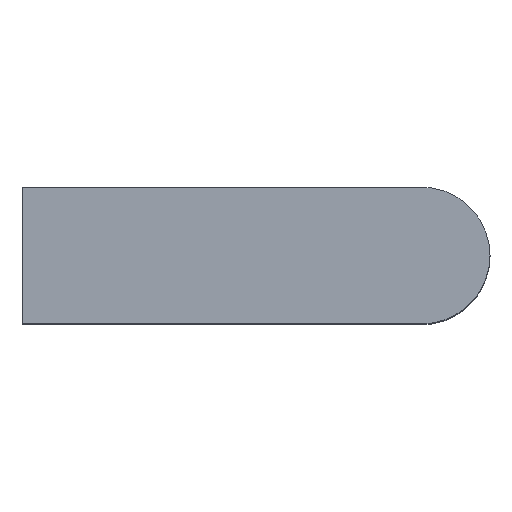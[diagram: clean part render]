
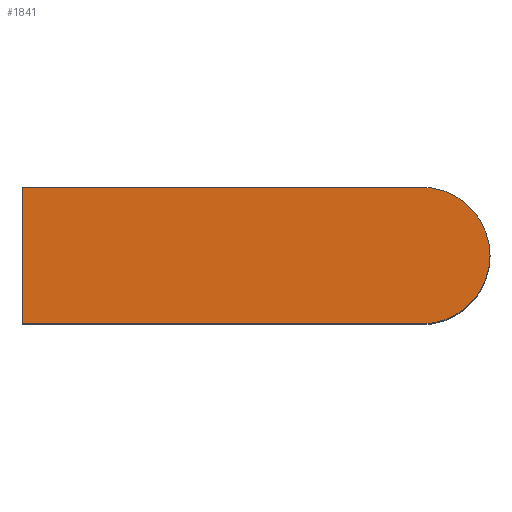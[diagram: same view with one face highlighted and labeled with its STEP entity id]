
A CAD part, top view. The second image highlights one B-rep face of the part: STEP entity #1841.
In plain terms, the highlighted planar face has unit normal (0, 0, 1).
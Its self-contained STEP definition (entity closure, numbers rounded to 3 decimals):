
#1344=CARTESIAN_POINT('Vertex',(55.5,0.,37.9)) ;
#1347=CARTESIAN_POINT('Line Origine',(27.75,0.,37.9)) ;
#1351=CARTESIAN_POINT('Vertex',(0.,0.,37.9)) ;
#1435=CARTESIAN_POINT('Vertex',(55.5,19.,37.9)) ;
#1438=CARTESIAN_POINT('Axis2P3D Location',(55.5,9.5,37.9)) ;
#1522=CARTESIAN_POINT('Line Origine',(0.,9.5,37.9)) ;
#1526=CARTESIAN_POINT('Vertex',(0.,19.,37.9)) ;
#1593=CARTESIAN_POINT('Line Origine',(27.75,19.,37.9)) ;
#1830=CARTESIAN_POINT('Axis2P3D Location',(0.,0.,37.9)) ;
#1348=DIRECTION('Vector Direction',(1.,0.,0.)) ;
#1439=DIRECTION('Axis2P3D Direction',(0.,0.,1.)) ;
#1523=DIRECTION('Vector Direction',(0.,-1.,0.)) ;
#1594=DIRECTION('Vector Direction',(-1.,0.,0.)) ;
#1831=DIRECTION('Axis2P3D Direction',(0.,0.,1.)) ;
#1832=DIRECTION('Axis2P3D XDirection',(1.,0.,0.)) ;
#1440=AXIS2_PLACEMENT_3D('Circle Axis2P3D',#1438,#1439,$) ;
#1833=AXIS2_PLACEMENT_3D('Plane Axis2P3D',#1830,#1831,#1832) ;
#1836=ORIENTED_EDGE('',*,*,#1353,.T.) ;
#1837=ORIENTED_EDGE('',*,*,#1442,.T.) ;
#1838=ORIENTED_EDGE('',*,*,#1597,.T.) ;
#1839=ORIENTED_EDGE('',*,*,#1528,.T.) ;
#1349=VECTOR('Line Direction',#1348,1.) ;
#1524=VECTOR('Line Direction',#1523,1.) ;
#1595=VECTOR('Line Direction',#1594,1.) ;
#1841=ADVANCED_FACE('PartBody',(#1840),#1834,.T.) ;
#1441=CIRCLE('generated circle',#1440,9.5) ;
#1353=EDGE_CURVE('',#1352,#1345,#1350,.T.) ;
#1442=EDGE_CURVE('',#1345,#1436,#1441,.T.) ;
#1528=EDGE_CURVE('',#1527,#1352,#1525,.T.) ;
#1597=EDGE_CURVE('',#1436,#1527,#1596,.T.) ;
#1835=EDGE_LOOP('',(#1836,#1837,#1838,#1839)) ;
#1840=FACE_OUTER_BOUND('',#1835,.T.) ;
#1350=LINE('Line',#1347,#1349) ;
#1525=LINE('Line',#1522,#1524) ;
#1596=LINE('Line',#1593,#1595) ;
#1834=PLANE('',#1833) ;
#1345=VERTEX_POINT('',#1344) ;
#1352=VERTEX_POINT('',#1351) ;
#1436=VERTEX_POINT('',#1435) ;
#1527=VERTEX_POINT('',#1526) ;
